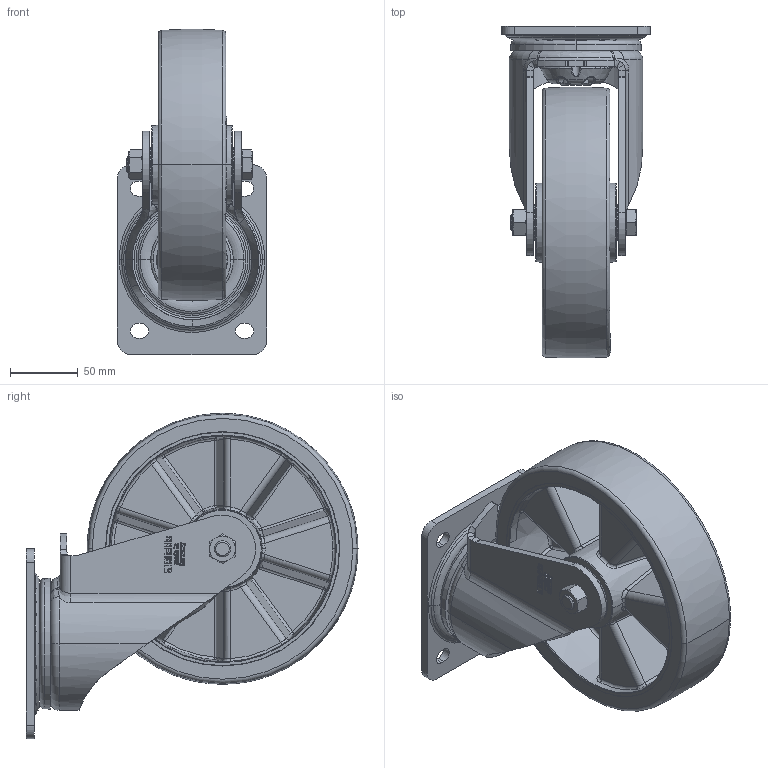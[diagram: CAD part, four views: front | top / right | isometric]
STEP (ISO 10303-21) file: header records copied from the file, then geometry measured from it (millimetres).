
FILE_DESCRIPTION (( 'STEP AP214' ), '1' );
FILE_NAME ('LH-ALTH_200K_265942-214.step', '2021-12-30T08:36:14', ( '' ), ( '' ), 'SwSTEP 2.0', 'SolidWorks 2018', '' );
FILE_SCHEMA (( 'AUTOMOTIVE_DESIGN' ));
Length unit declared in the file: millimetre
Products named in the file (5): GH-LH_175-250_GH-LH-200x60-03_20x60; ALTH_200_20K_G16_3D; LH-ALTH_200K_265942-214; GH-LH-200x60-03_20x60_G16_3D; ALTH_3D_G16_ALTH_200_20K_265736
Assembly tree (4 placements, depth 3):
  LH-ALTH_200K_265942-214
    GH-LH_175-250_GH-LH-200x60-03_20x60
      GH-LH-200x60-03_20x60_G16_3D
    ALTH_3D_G16_ALTH_200_20K_265736
      ALTH_200_20K_G16_3D
Bounding box: 110 x 244.91 x 239.91 mm (x, y, z)
Volume: 1064949.6 mm3; surface area: 283297.6 mm2
Topology: 2 solids, 5 shells, 2341 faces, 6077 edges, 3910 vertices
Faces by surface type: plane 1005, bspline 869, torus 184, cylinder 169, cone 76, sphere 38
Entity records: 92461 total; most frequent: CARTESIAN_POINT 36983, ORIENTED_EDGE 12146, DIRECTION 7963, EDGE_CURVE 6073, VERTEX_POINT 3910, VECTOR 3157, LINE 3157, EDGE_LOOP 2527
